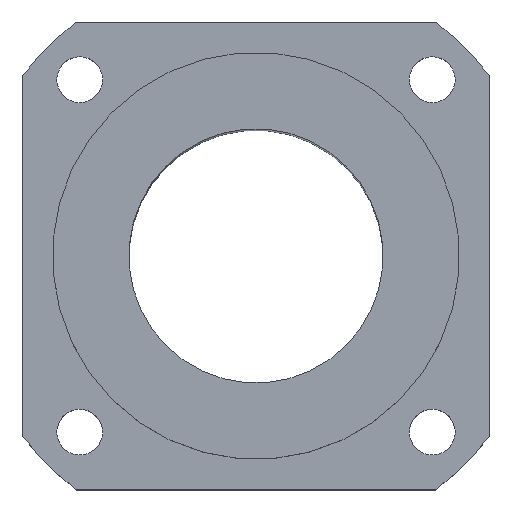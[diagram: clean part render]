
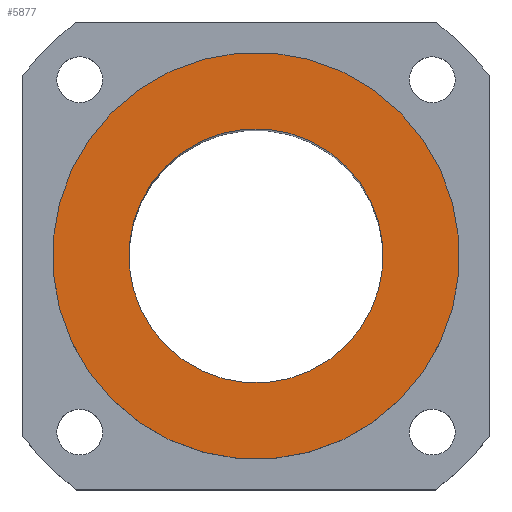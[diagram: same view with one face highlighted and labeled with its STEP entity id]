
A CAD part, top view. The second image highlights one B-rep face of the part: STEP entity #5877.
In plain terms, the highlighted planar face has unit normal (0, 0, 1).
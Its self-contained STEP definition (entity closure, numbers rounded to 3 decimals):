
#127=CIRCLE('',#6261,40.);
#129=CIRCLE('',#6265,25.);
#562=ORIENTED_EDGE('',*,*,#2241,.T.);
#563=ORIENTED_EDGE('',*,*,#2243,.F.);
#2241=EDGE_CURVE('',#3080,#3080,#127,.T.);
#2243=EDGE_CURVE('',#3082,#3082,#129,.T.);
#3080=VERTEX_POINT('',#9325);
#3082=VERTEX_POINT('',#9331);
#4822=EDGE_LOOP('',(#562));
#4823=EDGE_LOOP('',(#563));
#5245=FACE_BOUND('',#4822,.T.);
#5246=FACE_BOUND('',#4823,.T.);
#5604=PLANE('',#6266);
#5877=ADVANCED_FACE('',(#5245,#5246),#5604,.T.);
#6261=AXIS2_PLACEMENT_3D('',#9324,#6836,#6837);
#6265=AXIS2_PLACEMENT_3D('',#9330,#6844,#6845);
#6266=AXIS2_PLACEMENT_3D('',#9332,#6846,#6847);
#6836=DIRECTION('',(0.,0.,1.));
#6837=DIRECTION('',(0.707,-0.707,0.));
#6844=DIRECTION('',(0.,0.,1.));
#6845=DIRECTION('',(0.707,-0.707,0.));
#6846=DIRECTION('',(0.,0.,1.));
#6847=DIRECTION('',(0.707,-0.707,0.));
#9324=CARTESIAN_POINT('',(0.,0.,13.));
#9325=CARTESIAN_POINT('',(28.284,-28.284,13.));
#9330=CARTESIAN_POINT('',(0.,0.,13.));
#9331=CARTESIAN_POINT('',(17.678,-17.678,13.));
#9332=CARTESIAN_POINT('',(0.,0.,13.));
